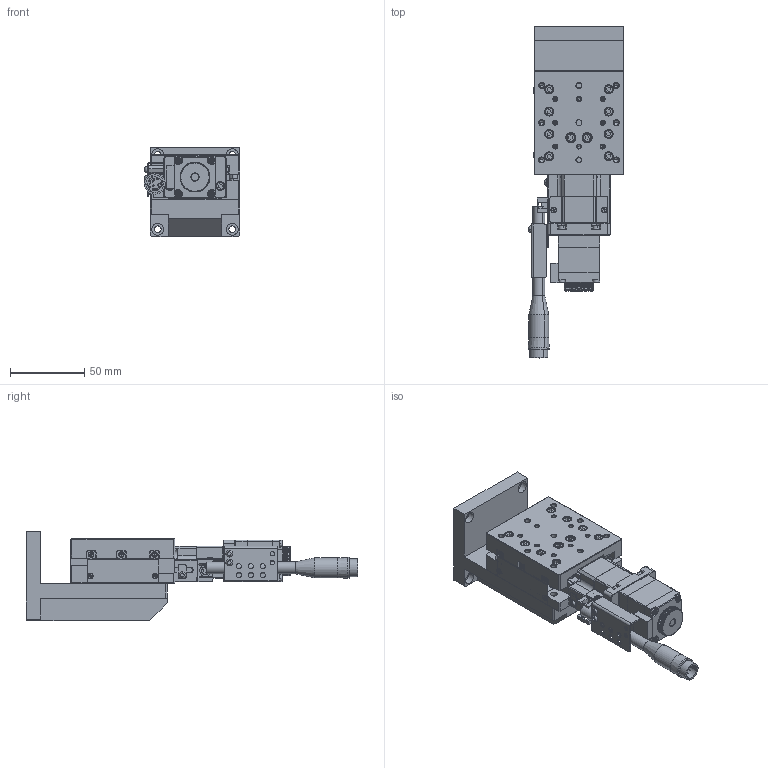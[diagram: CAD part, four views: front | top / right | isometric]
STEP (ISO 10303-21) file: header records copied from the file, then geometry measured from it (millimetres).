
FILE_DESCRIPTION (( 'STEP AP214' ), '1' );
FILE_NAME ('TZA6030B-L2-M28L.STEP', '2025-01-03T09:30:16', ( '' ), ( '' ), 'SwSTEP 2.0', 'SolidWorks 2020', '' );
FILE_SCHEMA (( 'AUTOMOTIVE_DESIGN' ));
Length unit declared in the file: millimetre
Products named in the file (1): TZA6030B-L2-M28L
Bounding box: 63.98 x 223 x 60 mm (x, y, z)
Volume: 275916.7 mm3; surface area: 108241.4 mm2
Topology: 81 solids, 81 shells, 3584 faces, 8945 edges, 5633 vertices
Faces by surface type: plane 1797, cylinder 940, cone 517, torus 172, bspline 154, sphere 4
Entity records: 154257 total; most frequent: CARTESIAN_POINT 28213, ORIENTED_EDGE 17708, DIRECTION 17630, EDGE_CURVE 8854, AXIS2_PLACEMENT_3D 6117, VERTEX_POINT 5633, LINE 5396, VECTOR 5396
